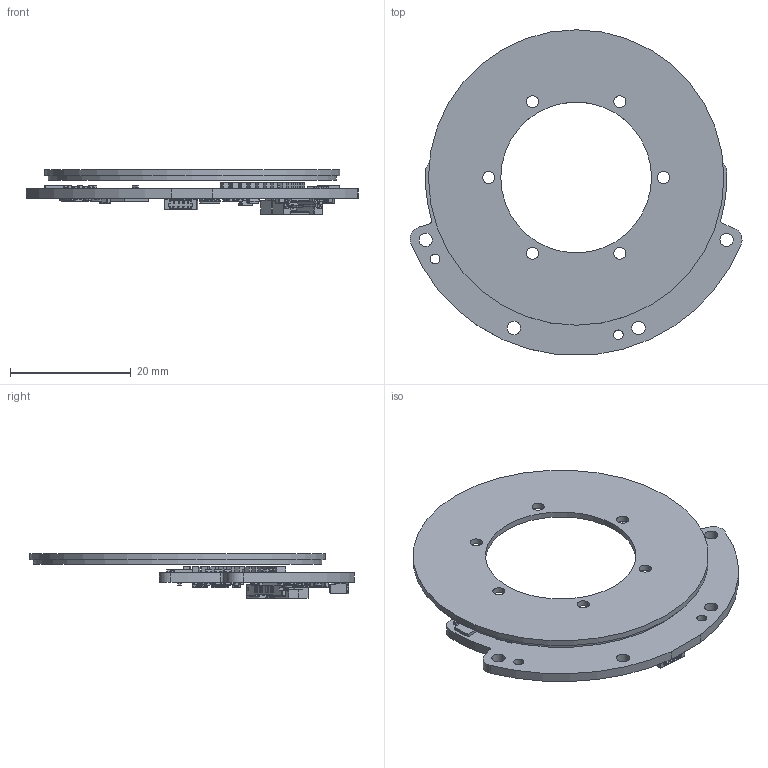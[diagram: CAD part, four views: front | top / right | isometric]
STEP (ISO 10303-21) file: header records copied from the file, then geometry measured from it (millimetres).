
FILE_DESCRIPTION(/* description */ (''),/* implementation_level */ '2;1');
FILE_NAME(/* name */ 'EAS-077.stp',/* time_stamp */ '2026-04-01T10:24:45+08:00',/* author */ (''),/* organization */ (''),/* preprocessor_version */ 'ST-DEVELOPER v20',/* originating_system */ 'SIEMENS PLM Software NX2312.1700',/* authorisation */ '');
FILE_SCHEMA (('AP203_CONFIGURATION_CONTROLLED_3D_DESIGN_OF_MECHANICAL_PARTS_AND_ASSEMBLIES_MIM_LF { 1 0 10303 403 2 1 2}'));
Products named in the file (1): EAS-077定位销1.6mm_objects
Bounding box: 55.05 x 53.8 x 7.41 mm (x, y, z)
Volume: 3714.6 mm3; surface area: 8369.2 mm2
Topology: 323 solids, 323 shells, 4583 faces, 11165 edges, 6987 vertices
Faces by surface type: plane 3359, cylinder 960, sphere 252, torus 12
Full cylindrical faces by diameter (mm): 0.5 x1, 1.6 x2, 2 x6, 2.2 x4, 25 x1, 33.8 x1, 47.8 x1, 49 x1
Entity records: 137197 total; most frequent: CARTESIAN_POINT 22524, DIRECTION 21998, ORIENTED_EDGE 21810, EDGE_CURVE 10905, LINE 8964, VECTOR 8964, VERTEX_POINT 6979, AXIS2_PLACEMENT_3D 6517
